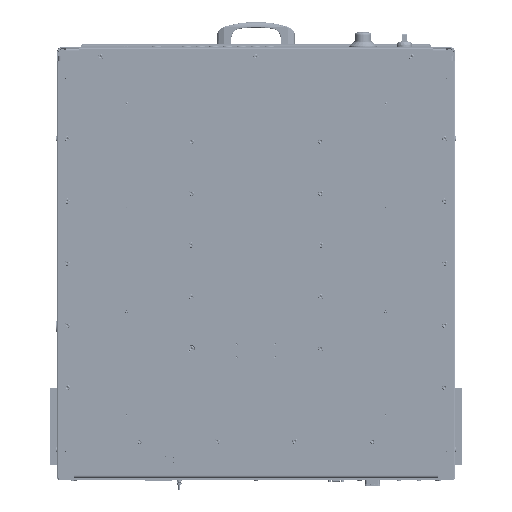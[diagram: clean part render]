
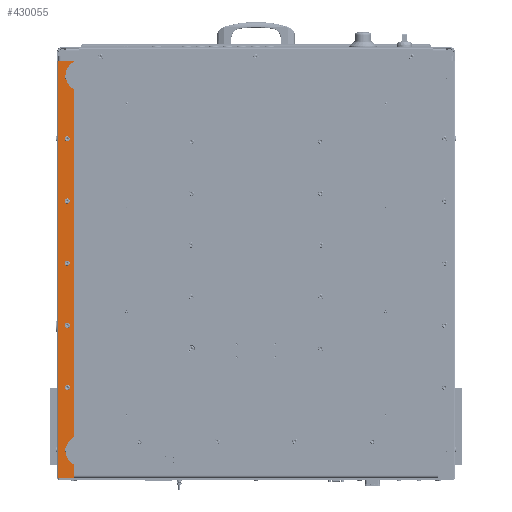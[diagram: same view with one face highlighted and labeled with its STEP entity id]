
A CAD part, front view. The second image highlights one B-rep face of the part: STEP entity #430055.
In plain terms, the highlighted planar face has unit normal (0, -1, 0).
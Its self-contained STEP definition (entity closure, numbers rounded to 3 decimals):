
#1530 = DIRECTION ( 'NONE',  ( 0., 0., -1. ) ) ;
#20653 = AXIS2_PLACEMENT_3D ( 'NONE', #364673, #618269, #1530 ) ;
#22582 = EDGE_CURVE ( 'NONE', #658749, #251806, #320908, .T. ) ;
#24703 = EDGE_LOOP ( 'NONE', ( #741510 ) ) ;
#30489 = ORIENTED_EDGE ( 'NONE', *, *, #459351, .F. ) ;
#38988 = VERTEX_POINT ( 'NONE', #196432 ) ;
#45252 = CIRCLE ( 'NONE', #517263, 3.35 ) ;
#49666 = FACE_BOUND ( 'NONE', #24703, .T. ) ;
#52905 = EDGE_CURVE ( 'NONE', #190291, #190291, #539313, .T. ) ;
#56986 = AXIS2_PLACEMENT_3D ( 'NONE', #515548, #146901, #766536 ) ;
#57602 = DIRECTION ( 'NONE',  ( -1., 0., 0. ) ) ;
#59399 = AXIS2_PLACEMENT_3D ( 'NONE', #696110, #565199, #251576 ) ;
#62079 = CIRCLE ( 'NONE', #585498, 3.35 ) ;
#73458 = DIRECTION ( 'NONE',  ( 0., 0., -1. ) ) ;
#74800 = VERTEX_POINT ( 'NONE', #279529 ) ;
#86096 = EDGE_LOOP ( 'NONE', ( #418057 ) ) ;
#88589 = EDGE_LOOP ( 'NONE', ( #30489 ) ) ;
#91531 = VERTEX_POINT ( 'NONE', #784449 ) ;
#95672 = VECTOR ( 'NONE', #57602, 1000. ) ;
#101881 = CARTESIAN_POINT ( 'NONE',  ( -351.5, 0., 124. ) ) ;
#102123 = EDGE_LOOP ( 'NONE', ( #529854 ) ) ;
#103674 = CIRCLE ( 'NONE', #59399, 3.35 ) ;
#107551 = EDGE_LOOP ( 'NONE', ( #695495, #807971, #719031, #124837 ) ) ;
#116845 = CIRCLE ( 'NONE', #492743, 3.35 ) ;
#124837 = ORIENTED_EDGE ( 'NONE', *, *, #387996, .T. ) ;
#128850 = CARTESIAN_POINT ( 'NONE',  ( -364.5, 0., -267. ) ) ;
#146901 = DIRECTION ( 'NONE',  ( 0., -1., 0. ) ) ;
#148195 = DIRECTION ( 'NONE',  ( 0., 1., 0. ) ) ;
#186205 = CARTESIAN_POINT ( 'NONE',  ( -364.5, 0., -150.35 ) ) ;
#188397 = CARTESIAN_POINT ( 'NONE',  ( -384.5, 0., 124. ) ) ;
#190291 = VERTEX_POINT ( 'NONE', #676633 ) ;
#196432 = CARTESIAN_POINT ( 'NONE',  ( -364.5, 0., -30.35 ) ) ;
#216524 = CARTESIAN_POINT ( 'NONE',  ( -384.5, 0., 0. ) ) ;
#218844 = ORIENTED_EDGE ( 'NONE', *, *, #476901, .F. ) ;
#219225 = PLANE ( 'NONE',  #787325 ) ;
#232496 = VECTOR ( 'NONE', #248358, 1000. ) ;
#238073 = CARTESIAN_POINT ( 'NONE',  ( -381.9, 0., 124. ) ) ;
#243296 = VERTEX_POINT ( 'NONE', #583799 ) ;
#243937 = CARTESIAN_POINT ( 'NONE',  ( -364.5, 0., 93. ) ) ;
#245195 = DIRECTION ( 'NONE',  ( 0., 0., -1. ) ) ;
#248358 = DIRECTION ( 'NONE',  ( -1., 0., 0. ) ) ;
#251576 = DIRECTION ( 'NONE',  ( 0., 0., -1. ) ) ;
#251806 = VERTEX_POINT ( 'NONE', #238073 ) ;
#259110 = ORIENTED_EDGE ( 'NONE', *, *, #717200, .F. ) ;
#261665 = LINE ( 'NONE', #188397, #95672 ) ;
#279529 = CARTESIAN_POINT ( 'NONE',  ( -351.5, 0., -681.4 ) ) ;
#286311 = EDGE_LOOP ( 'NONE', ( #218844 ) ) ;
#298051 = VERTEX_POINT ( 'NONE', #101881 ) ;
#301294 = DIRECTION ( 'NONE',  ( 0., -1., 0. ) ) ;
#301339 = VECTOR ( 'NONE', #558647, 1000. ) ;
#309042 = DIRECTION ( 'NONE',  ( 0., -1., 0. ) ) ;
#315631 = ORIENTED_EDGE ( 'NONE', *, *, #489474, .F. ) ;
#320908 = LINE ( 'NONE', #373079, #301339 ) ;
#324929 = CARTESIAN_POINT ( 'NONE',  ( -351.5, 0., 0. ) ) ;
#342768 = VERTEX_POINT ( 'NONE', #751564 ) ;
#352653 = FACE_BOUND ( 'NONE', #362080, .T. ) ;
#361413 = DIRECTION ( 'NONE',  ( 0., 0., -1. ) ) ;
#362080 = EDGE_LOOP ( 'NONE', ( #315631 ) ) ;
#363848 = EDGE_CURVE ( 'NONE', #74800, #298051, #419714, .T. ) ;
#364673 = CARTESIAN_POINT ( 'NONE',  ( -364.5, 0., -387. ) ) ;
#373079 = CARTESIAN_POINT ( 'NONE',  ( -381.9, 0., 124. ) ) ;
#387996 = EDGE_CURVE ( 'NONE', #298051, #251806, #261665, .T. ) ;
#400950 = VERTEX_POINT ( 'NONE', #791484 ) ;
#418057 = ORIENTED_EDGE ( 'NONE', *, *, #662485, .F. ) ;
#419714 = LINE ( 'NONE', #324929, #565984 ) ;
#430055 = ADVANCED_FACE ( 'NONE', ( #781817, #674464, #49666, #684653, #664974, #567125, #352653, #508565 ), #219225, .F. ) ;
#436573 = CARTESIAN_POINT ( 'NONE',  ( -339.5, 0., -681.4 ) ) ;
#459351 = EDGE_CURVE ( 'NONE', #342768, #342768, #45252, .T. ) ;
#476901 = EDGE_CURVE ( 'NONE', #38988, #38988, #668242, .T. ) ;
#489474 = EDGE_CURVE ( 'NONE', #243296, #243296, #103674, .T. ) ;
#492743 = AXIS2_PLACEMENT_3D ( 'NONE', #128850, #309042, #500090 ) ;
#493581 = CARTESIAN_POINT ( 'NONE',  ( -381.9, 0., -681.4 ) ) ;
#500090 = DIRECTION ( 'NONE',  ( 0., 0., -1. ) ) ;
#507004 = CARTESIAN_POINT ( 'NONE',  ( -364.5, 0., -147. ) ) ;
#508565 = FACE_OUTER_BOUND ( 'NONE', #107551, .T. ) ;
#513264 = DIRECTION ( 'NONE',  ( 0., 0., 1. ) ) ;
#515548 = CARTESIAN_POINT ( 'NONE',  ( -364.5, 0., -27. ) ) ;
#517263 = AXIS2_PLACEMENT_3D ( 'NONE', #243937, #301294, #361413 ) ;
#529854 = ORIENTED_EDGE ( 'NONE', *, *, #52905, .F. ) ;
#539313 = CIRCLE ( 'NONE', #20653, 3.35 ) ;
#558647 = DIRECTION ( 'NONE',  ( 0., 0., 1. ) ) ;
#565199 = DIRECTION ( 'NONE',  ( 0., -1., 0. ) ) ;
#565984 = VECTOR ( 'NONE', #513264, 1000. ) ;
#567125 = FACE_BOUND ( 'NONE', #86096, .T. ) ;
#583799 = CARTESIAN_POINT ( 'NONE',  ( -364.5, 0., -630.35 ) ) ;
#585498 = AXIS2_PLACEMENT_3D ( 'NONE', #507004, #744550, #245195 ) ;
#595201 = VERTEX_POINT ( 'NONE', #186205 ) ;
#596914 = EDGE_CURVE ( 'NONE', #74800, #658749, #769605, .T. ) ;
#607062 = EDGE_LOOP ( 'NONE', ( #259110 ) ) ;
#618269 = DIRECTION ( 'NONE',  ( 0., -1., 0. ) ) ;
#658749 = VERTEX_POINT ( 'NONE', #493581 ) ;
#662485 = EDGE_CURVE ( 'NONE', #91531, #91531, #780939, .T. ) ;
#664974 = FACE_BOUND ( 'NONE', #102123, .T. ) ;
#668242 = CIRCLE ( 'NONE', #56986, 3.35 ) ;
#674464 = FACE_BOUND ( 'NONE', #286311, .T. ) ;
#676633 = CARTESIAN_POINT ( 'NONE',  ( -364.5, 0., -390.35 ) ) ;
#684653 = FACE_BOUND ( 'NONE', #607062, .T. ) ;
#695495 = ORIENTED_EDGE ( 'NONE', *, *, #22582, .F. ) ;
#696110 = CARTESIAN_POINT ( 'NONE',  ( -364.5, 0., -627. ) ) ;
#700953 = CARTESIAN_POINT ( 'NONE',  ( -364.5, 0., -507. ) ) ;
#717200 = EDGE_CURVE ( 'NONE', #400950, #400950, #116845, .T. ) ;
#718533 = DIRECTION ( 'NONE',  ( -1., 0., 0. ) ) ;
#719031 = ORIENTED_EDGE ( 'NONE', *, *, #363848, .T. ) ;
#741510 = ORIENTED_EDGE ( 'NONE', *, *, #744235, .F. ) ;
#744235 = EDGE_CURVE ( 'NONE', #595201, #595201, #62079, .T. ) ;
#744550 = DIRECTION ( 'NONE',  ( 0., -1., 0. ) ) ;
#751564 = CARTESIAN_POINT ( 'NONE',  ( -364.5, 0., 89.65 ) ) ;
#758438 = DIRECTION ( 'NONE',  ( 0., -1., 0. ) ) ;
#763093 = AXIS2_PLACEMENT_3D ( 'NONE', #700953, #758438, #73458 ) ;
#766536 = DIRECTION ( 'NONE',  ( 0., 0., -1. ) ) ;
#769605 = LINE ( 'NONE', #436573, #232496 ) ;
#780939 = CIRCLE ( 'NONE', #763093, 3.35 ) ;
#781817 = FACE_BOUND ( 'NONE', #88589, .T. ) ;
#784449 = CARTESIAN_POINT ( 'NONE',  ( -364.5, 0., -510.35 ) ) ;
#787325 = AXIS2_PLACEMENT_3D ( 'NONE', #216524, #148195, #718533 ) ;
#791484 = CARTESIAN_POINT ( 'NONE',  ( -364.5, 0., -270.35 ) ) ;
#807971 = ORIENTED_EDGE ( 'NONE', *, *, #596914, .F. ) ;
